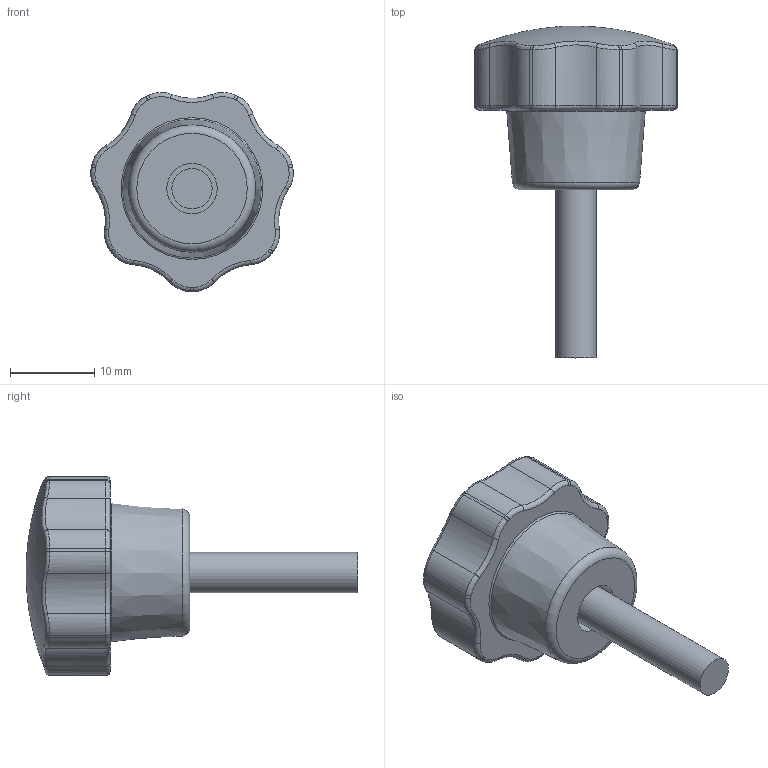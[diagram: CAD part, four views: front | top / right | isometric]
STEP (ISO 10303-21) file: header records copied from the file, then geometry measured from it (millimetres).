
FILE_DESCRIPTION(/* description */ (''),/* implementation_level */ '2;1');
FILE_NAME(/* name */ '\\SYNOLOGYNAS\web\db2\MSKB_M\MSKB5\도면\MSKB-M5-20.stp',/* time_stamp */ '2024-04-11T13:17:07+09:00',/* author */ ('user'),/* organization */ (''),/* preprocessor_version */ 'ST-DEVELOPER v15.6',/* originating_system */ 'Autodesk Inventor 2015',/* authorisation */ '');
FILE_SCHEMA (('AUTOMOTIVE_DESIGN { 1 0 10303 214 3 1 1 }'));
Length unit declared in the file: millimetre
Products named in the file (1): MSKB-M5-20
Bounding box: 24.11 x 39.5 x 23.68 mm (x, y, z)
Volume: 5862.8 mm3; surface area: 2307.9 mm2
Topology: 1 solids, 1 shells, 94 faces, 212 edges, 122 vertices
Faces by surface type: torus 37, cylinder 30, bspline 22, plane 4, cone 1
Full cylindrical faces by diameter (mm): 4.8 x1, 6 x1
Entity records: 3069 total; most frequent: CARTESIAN_POINT 1025, DIRECTION 444, ORIENTED_EDGE 412, AXIS2_PLACEMENT_3D 208, EDGE_CURVE 206, CIRCLE 135, VERTEX_POINT 122, EDGE_LOOP 102
